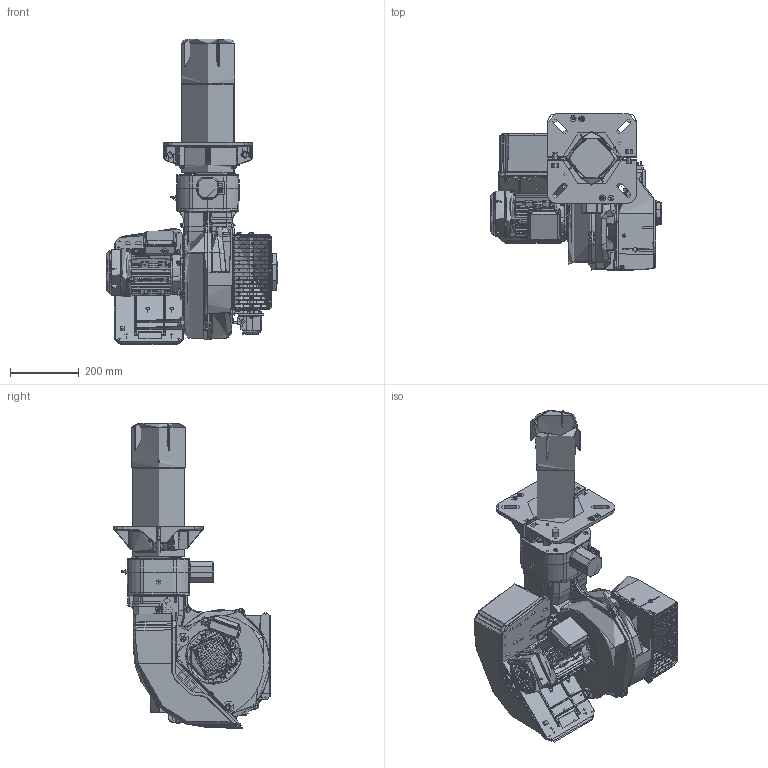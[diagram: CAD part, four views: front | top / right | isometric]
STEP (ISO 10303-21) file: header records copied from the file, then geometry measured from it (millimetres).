
FILE_DESCRIPTION (( 'STEP AP214' ), '1' );
FILE_NAME ('17270010-118637S.STEP', '2017-09-13T14:15:31', ( '' ), ( '' ), 'SwSTEP 2.0', 'SolidWorks 2016', '' );
FILE_SCHEMA (( 'AUTOMOTIVE_DESIGN' ));
Length unit declared in the file: millimetre
Products named in the file (1): 17270010-118637S
Bounding box: 498.74 x 454.47 x 889.19 mm (x, y, z)
Topology: 0 solids, 458 shells, 3854 faces, 15930 edges, 12100 vertices
Faces by surface type: plane 1802, cylinder 1038, bspline 733, cone 281
Full cylindrical faces by diameter (mm): 1.6 x1, 2.5 x3, 3.3 x1, 3.6 x2, 3.9 x2, 4 x3, 4.2 x2, 4.5 x4, 4.6 x3, 5 x21, 5.1 x1, 5.2 x1, 5.4 x1, 5.498 x1, 5.5 x5, 5.7 x2, 5.8 x2, 6 x3, 6.5 x2, 7 x4, 7.5 x2, 8 x15, 9 x4, 9.5 x11, 10 x3, 10.2 x2, 11 x1, 12 x5, 12.649 x1, 13 x1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
Entity records: 311714 total; most frequent: CARTESIAN_POINT 200107, ORIENTED_EDGE 21831, DIRECTION 16948, EDGE_CURVE 15482, VERTEX_POINT 12000, LINE 7570, VECTOR 7570, B_SPLINE_CURVE_WITH_KNOTS 6276
